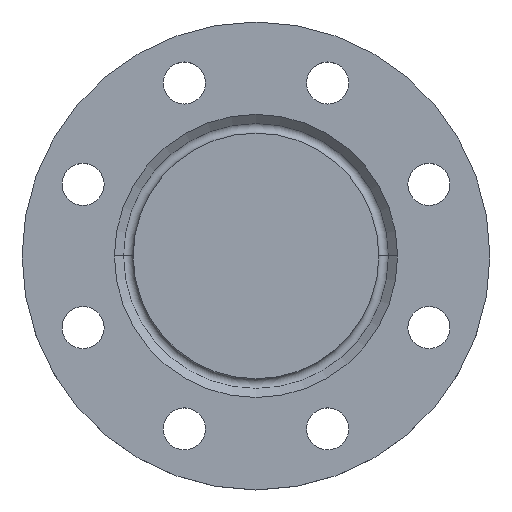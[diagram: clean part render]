
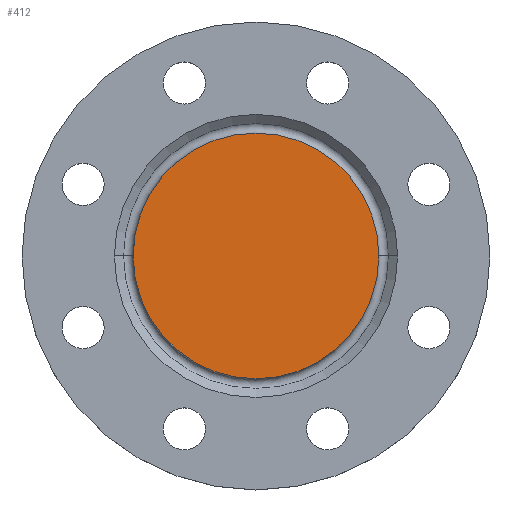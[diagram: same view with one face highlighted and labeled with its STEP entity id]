
A CAD part, top view. The second image highlights one B-rep face of the part: STEP entity #412.
In plain terms, the highlighted planar face has unit normal (0, 0, 1).
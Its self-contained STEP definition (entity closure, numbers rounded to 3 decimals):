
#22 = AXIS2_PLACEMENT_3D ( 'NONE', #679, #680, #681 ) ;
#26 = CIRCLE ( 'NONE', #22, 52.5 ) ;
#279 = CARTESIAN_POINT ( 'NONE',  ( -52.5, 0., 0. ) ) ;
#282 = CARTESIAN_POINT ( 'NONE',  ( 52.5, 0., 0. ) ) ;
#291 = DIRECTION ( 'NONE',  ( -1., 0., 0. ) ) ;
#292 = DIRECTION ( 'NONE',  ( 0., 0., -1. ) ) ;
#293 = CARTESIAN_POINT ( 'NONE',  ( 0., 0., 0. ) ) ;
#319 = EDGE_CURVE ( 'NONE', #503, #506, #26, .T. ) ;
#362 = PLANE ( 'NONE',  #365 ) ;
#365 = AXIS2_PLACEMENT_3D ( 'NONE', #372, #369, #383 ) ;
#369 = DIRECTION ( 'NONE',  ( 0., 0., 1. ) ) ;
#372 = CARTESIAN_POINT ( 'NONE',  ( 0., 0., 0. ) ) ;
#383 = DIRECTION ( 'NONE',  ( 1., 0., 0. ) ) ;
#388 = FACE_OUTER_BOUND ( 'NONE', #525, .T. ) ;
#412 = ADVANCED_FACE ( 'NONE', ( #388 ), #362, .T. ) ;
#457 = CIRCLE ( 'NONE', #458, 52.5 ) ;
#458 = AXIS2_PLACEMENT_3D ( 'NONE', #293, #292, #291 ) ;
#476 = EDGE_CURVE ( 'NONE', #506, #503, #457, .T. ) ;
#503 = VERTEX_POINT ( 'NONE', #282 ) ;
#506 = VERTEX_POINT ( 'NONE', #279 ) ;
#525 = EDGE_LOOP ( 'NONE', ( #835, #836 ) ) ;
#679 = CARTESIAN_POINT ( 'NONE',  ( 0., 0., 0. ) ) ;
#680 = DIRECTION ( 'NONE',  ( 0., 0., -1. ) ) ;
#681 = DIRECTION ( 'NONE',  ( -1., 0., 0. ) ) ;
#835 = ORIENTED_EDGE ( 'NONE', *, *, #476, .F. ) ;
#836 = ORIENTED_EDGE ( 'NONE', *, *, #319, .F. ) ;
